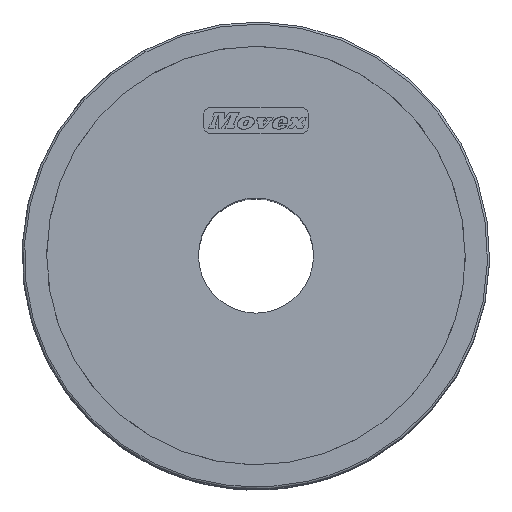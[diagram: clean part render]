
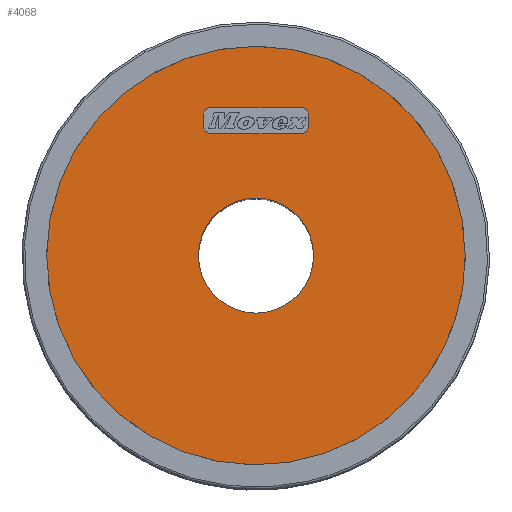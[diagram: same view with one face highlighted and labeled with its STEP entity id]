
A CAD part, top view. The second image highlights one B-rep face of the part: STEP entity #4068.
In plain terms, the highlighted planar face has unit normal (0, 0, 1).
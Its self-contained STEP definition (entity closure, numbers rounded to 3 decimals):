
#2334=EDGE_CURVE('',#6826,#6827,#6828,.T.);
#2346=EDGE_CURVE('',#6847,#6848,#6849,.T.);
#2364=EDGE_CURVE('',#6879,#6880,#6881,.T.);
#2412=EDGE_CURVE('',#6968,#6969,#6970,.T.);
#2528=EDGE_CURVE('',#7178,#7179,#7180,.T.);
#2554=EDGE_CURVE('',#7226,#7227,#7228,.T.);
#2744=EDGE_CURVE('',#7558,#6826,#7559,.T.);
#2952=EDGE_CURVE('',#6827,#7558,#7905,.T.);
#3068=EDGE_CURVE('',#6969,#6879,#8087,.T.);
#4068=ADVANCED_FACE('',(#9587,#9588,#9589),#9590,.T.);
#4434=EDGE_CURVE('',#7227,#6968,#10092,.T.);
#4718=EDGE_CURVE('',#6848,#6847,#10459,.T.);
#4936=EDGE_CURVE('',#6880,#7178,#10738,.T.);
#4968=EDGE_CURVE('',#7179,#7226,#10777,.T.);
#6826=VERTEX_POINT('',#12977);
#6827=VERTEX_POINT('',#12978);
#6828=CIRCLE('',#12979,30.0);
#6847=VERTEX_POINT('',#13007);
#6848=VERTEX_POINT('',#13008);
#6849=CIRCLE('',#13009,8.25);
#6879=VERTEX_POINT('',#13049);
#6880=VERTEX_POINT('',#13050);
#6881=CIRCLE('',#13051,1.0);
#6968=VERTEX_POINT('',#13175);
#6969=VERTEX_POINT('',#13176);
#6970=CIRCLE('',#13177,1.0);
#7178=VERTEX_POINT('',#13468);
#7179=VERTEX_POINT('',#13469);
#7180=CIRCLE('',#13470,1.0);
#7226=VERTEX_POINT('',#13533);
#7227=VERTEX_POINT('',#13534);
#7228=CIRCLE('',#13535,1.0);
#7558=VERTEX_POINT('',#13999);
#7559=CIRCLE('',#14000,30.0);
#7905=CIRCLE('',#14497,30.0);
#8087=LINE('',#14748,#14749);
#9587=FACE_BOUND('',#16878,.T.);
#9588=FACE_OUTER_BOUND('',#16879,.T.);
#9589=FACE_BOUND('',#16880,.T.);
#9590=PLANE('',#16881);
#10092=LINE('',#17641,#17642);
#10459=CIRCLE('',#18190,8.25);
#10738=LINE('',#18606,#18607);
#10777=LINE('',#18667,#18668);
#12977=CARTESIAN_POINT('',(30.0,0.,41.25));
#12978=CARTESIAN_POINT('',(-30.0,0.,41.25));
#12979=AXIS2_PLACEMENT_3D('',#21878,#21879,#21880);
#13007=CARTESIAN_POINT('',(-8.25,0.,41.25));
#13008=CARTESIAN_POINT('',(8.25,0.,41.25));
#13009=AXIS2_PLACEMENT_3D('',#21893,#21894,#21895);
#13049=CARTESIAN_POINT('',(-7.484,20.242,41.25));
#13050=CARTESIAN_POINT('',(-6.484,21.242,41.25));
#13051=AXIS2_PLACEMENT_3D('',#21927,#21928,#21929);
#13175=CARTESIAN_POINT('',(-6.484,17.5,41.25));
#13176=CARTESIAN_POINT('',(-7.484,18.5,41.25));
#13177=AXIS2_PLACEMENT_3D('',#22001,#22002,#22003);
#13468=CARTESIAN_POINT('',(6.484,21.242,41.25));
#13469=CARTESIAN_POINT('',(7.484,20.242,41.25));
#13470=AXIS2_PLACEMENT_3D('',#22155,#22156,#22157);
#13533=CARTESIAN_POINT('',(7.484,18.5,41.25));
#13534=CARTESIAN_POINT('',(6.484,17.5,41.25));
#13535=AXIS2_PLACEMENT_3D('',#22198,#22199,#22200);
#13999=CARTESIAN_POINT('',(14.383,-26.327,41.25));
#14000=AXIS2_PLACEMENT_3D('',#22512,#22513,#22514);
#14497=AXIS2_PLACEMENT_3D('',#22792,#22793,#22794);
#14748=CARTESIAN_POINT('',(-7.484,9.25,41.25));
#14749=VECTOR('',#23004,1.0);
#16878=EDGE_LOOP('',(#25206,#25207,#25208,#25209,#25210,#25211,#25212,#25213));
#16879=EDGE_LOOP('',(#25214,#25215,#25216));
#16880=EDGE_LOOP('',(#25217,#25218));
#16881=AXIS2_PLACEMENT_3D('',#25219,#25220,#25221);
#17641=CARTESIAN_POINT('',(-3.242,17.5,41.25));
#17642=VECTOR('',#25827,1.0);
#18190=AXIS2_PLACEMENT_3D('',#26305,#26306,#26307);
#18606=CARTESIAN_POINT('',(-3.242,21.242,41.25));
#18607=VECTOR('',#26873,1.0);
#18667=CARTESIAN_POINT('',(7.484,10.121,41.25));
#18668=VECTOR('',#26923,1.0);
#21878=CARTESIAN_POINT('',(0.,0.,41.25));
#21879=DIRECTION('',(0.0,0.0,1.0));
#21880=DIRECTION('',(1.0,0.0,0.0));
#21893=CARTESIAN_POINT('',(0.0,0.,41.25));
#21894=DIRECTION('',(0.0,0.0,1.0));
#21895=DIRECTION('',(1.0,0.0,0.0));
#21927=CARTESIAN_POINT('',(-6.484,20.242,41.25));
#21928=DIRECTION('',(0.0,0.0,-1.0));
#21929=DIRECTION('',(0.,1.0,0.0));
#22001=CARTESIAN_POINT('',(-6.484,18.5,41.25));
#22002=DIRECTION('',(-0.0,0.0,-1.0));
#22003=DIRECTION('',(-1.0,0.,0.0));
#22155=CARTESIAN_POINT('',(6.484,20.242,41.25));
#22156=DIRECTION('',(0.0,0.0,-1.0));
#22157=DIRECTION('',(1.0,0.0,0.0));
#22198=CARTESIAN_POINT('',(6.484,18.5,41.25));
#22199=DIRECTION('',(-0.0,0.0,-1.0));
#22200=DIRECTION('',(0.,-1.0,0.0));
#22512=CARTESIAN_POINT('',(0.,0.,41.25));
#22513=DIRECTION('',(0.0,0.0,1.0));
#22514=DIRECTION('',(1.0,0.0,0.0));
#22792=CARTESIAN_POINT('',(0.,0.,41.25));
#22793=DIRECTION('',(0.0,0.0,1.0));
#22794=DIRECTION('',(1.0,0.0,0.0));
#23004=DIRECTION('',(0.0,1.0,-0.0));
#25206=ORIENTED_EDGE('',*,*,#4434,.T.);
#25207=ORIENTED_EDGE('',*,*,#2412,.T.);
#25208=ORIENTED_EDGE('',*,*,#3068,.T.);
#25209=ORIENTED_EDGE('',*,*,#2364,.T.);
#25210=ORIENTED_EDGE('',*,*,#4936,.T.);
#25211=ORIENTED_EDGE('',*,*,#2528,.T.);
#25212=ORIENTED_EDGE('',*,*,#4968,.T.);
#25213=ORIENTED_EDGE('',*,*,#2554,.T.);
#25214=ORIENTED_EDGE('',*,*,#2744,.T.);
#25215=ORIENTED_EDGE('',*,*,#2334,.T.);
#25216=ORIENTED_EDGE('',*,*,#2952,.T.);
#25217=ORIENTED_EDGE('',*,*,#2346,.F.);
#25218=ORIENTED_EDGE('',*,*,#4718,.F.);
#25219=CARTESIAN_POINT('',(0.,0.,41.25));
#25220=DIRECTION('',(0.0,0.0,1.0));
#25221=DIRECTION('',(1.0,0.0,0.0));
#25827=DIRECTION('',(-1.0,0.0,0.0));
#26305=CARTESIAN_POINT('',(0.0,0.,41.25));
#26306=DIRECTION('',(0.0,0.0,1.0));
#26307=DIRECTION('',(1.0,0.0,0.0));
#26873=DIRECTION('',(1.0,0.0,0.0));
#26923=DIRECTION('',(0.,-1.0,0.0));
